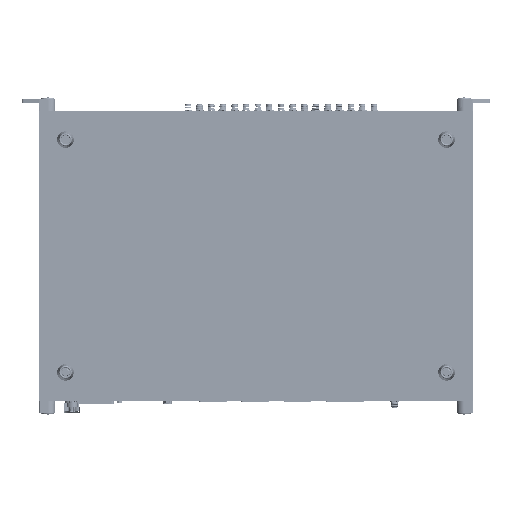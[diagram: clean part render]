
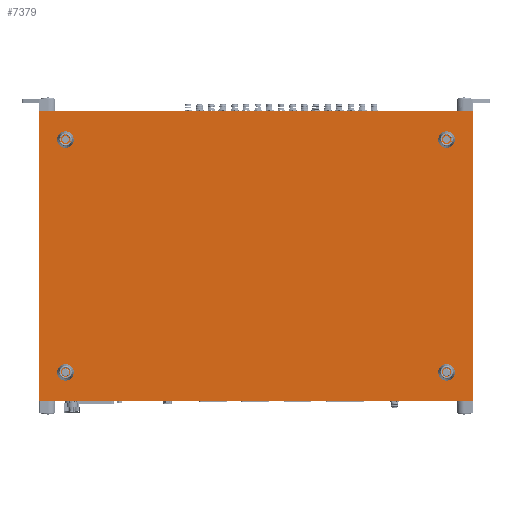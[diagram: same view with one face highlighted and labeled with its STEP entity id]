
A CAD part, front view. The second image highlights one B-rep face of the part: STEP entity #7379.
In plain terms, the highlighted planar face has unit normal (0, -1, 0).
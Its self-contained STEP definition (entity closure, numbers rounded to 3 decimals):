
#2614 = CARTESIAN_POINT ( 'NONE',  ( -195.5, -43.8, -120.5 ) ) ;
#5942 = CIRCLE ( 'NONE', #533379, 1.65 ) ;
#7379 = ADVANCED_FACE ( 'NONE', ( #109733, #21734, #277709, #106999, #148380 ), #484308, .F. ) ;
#10000 = CARTESIAN_POINT ( 'NONE',  ( -172., -43.8, 116.65 ) ) ;
#12257 = DIRECTION ( 'NONE',  ( 0., 0., 1. ) ) ;
#13948 = LINE ( 'NONE', #264521, #210901 ) ;
#15389 = CIRCLE ( 'NONE', #340426, 1.65 ) ;
#17143 = EDGE_LOOP ( 'NONE', ( #386265 ) ) ;
#21734 = FACE_BOUND ( 'NONE', #17143, .T. ) ;
#26334 = CARTESIAN_POINT ( 'NONE',  ( -172., -43.8, 115. ) ) ;
#32333 = AXIS2_PLACEMENT_3D ( 'NONE', #26334, #530190, #152980 ) ;
#40276 = VERTEX_POINT ( 'NONE', #65347 ) ;
#41625 = EDGE_LOOP ( 'NONE', ( #210999 ) ) ;
#46242 = ORIENTED_EDGE ( 'NONE', *, *, #505472, .F. ) ;
#49394 = LINE ( 'NONE', #2614, #357622 ) ;
#57678 = CARTESIAN_POINT ( 'NONE',  ( 0., -43.8, 10. ) ) ;
#59235 = EDGE_LOOP ( 'NONE', ( #46242, #224777, #220338, #104412 ) ) ;
#65347 = CARTESIAN_POINT ( 'NONE',  ( -195.5, -43.8, 140.5 ) ) ;
#66564 = VERTEX_POINT ( 'NONE', #150269 ) ;
#70353 = CARTESIAN_POINT ( 'NONE',  ( 172., -43.8, -95. ) ) ;
#71570 = VERTEX_POINT ( 'NONE', #190051 ) ;
#78099 = VERTEX_POINT ( 'NONE', #375392 ) ;
#104412 = ORIENTED_EDGE ( 'NONE', *, *, #392840, .F. ) ;
#106999 = FACE_BOUND ( 'NONE', #41625, .T. ) ;
#109733 = FACE_BOUND ( 'NONE', #155337, .T. ) ;
#148380 = FACE_OUTER_BOUND ( 'NONE', #59235, .T. ) ;
#150269 = CARTESIAN_POINT ( 'NONE',  ( -195.5, -43.8, -120.5 ) ) ;
#152980 = DIRECTION ( 'NONE',  ( 0., 0., 1. ) ) ;
#155337 = EDGE_LOOP ( 'NONE', ( #177024 ) ) ;
#165220 = DIRECTION ( 'NONE',  ( 0., 0., 1. ) ) ;
#168701 = CIRCLE ( 'NONE', #353079, 1.65 ) ;
#175248 = VERTEX_POINT ( 'NONE', #10000 ) ;
#177024 = ORIENTED_EDGE ( 'NONE', *, *, #268965, .T. ) ;
#190051 = CARTESIAN_POINT ( 'NONE',  ( 172., -43.8, 116.65 ) ) ;
#201013 = CARTESIAN_POINT ( 'NONE',  ( 195.5, -43.8, -120.5 ) ) ;
#210901 = VECTOR ( 'NONE', #344419, 1000. ) ;
#210999 = ORIENTED_EDGE ( 'NONE', *, *, #463841, .T. ) ;
#215021 = EDGE_CURVE ( 'NONE', #71570, #71570, #15389, .T. ) ;
#220338 = ORIENTED_EDGE ( 'NONE', *, *, #470003, .F. ) ;
#224217 = DIRECTION ( 'NONE',  ( 0., 1., 0. ) ) ;
#224777 = ORIENTED_EDGE ( 'NONE', *, *, #379787, .F. ) ;
#225586 = DIRECTION ( 'NONE',  ( 0., 0., 1. ) ) ;
#248440 = EDGE_CURVE ( 'NONE', #525306, #525306, #5942, .T. ) ;
#255900 = DIRECTION ( 'NONE',  ( 0., 0., 1. ) ) ;
#264521 = CARTESIAN_POINT ( 'NONE',  ( -195.5, -43.8, -120.5 ) ) ;
#268965 = EDGE_CURVE ( 'NONE', #78099, #78099, #168701, .T. ) ;
#269583 = DIRECTION ( 'NONE',  ( 0., 1., 0. ) ) ;
#277709 = FACE_BOUND ( 'NONE', #335623, .T. ) ;
#282295 = DIRECTION ( 'NONE',  ( 0., 1., 0. ) ) ;
#316062 = CARTESIAN_POINT ( 'NONE',  ( 172., -43.8, -93.35 ) ) ;
#316756 = CARTESIAN_POINT ( 'NONE',  ( -195.5, -43.8, 140.5 ) ) ;
#330409 = CARTESIAN_POINT ( 'NONE',  ( -172., -43.8, -95. ) ) ;
#333479 = CARTESIAN_POINT ( 'NONE',  ( 195.5, -43.8, 140.5 ) ) ;
#335623 = EDGE_LOOP ( 'NONE', ( #525836 ) ) ;
#340426 = AXIS2_PLACEMENT_3D ( 'NONE', #342717, #224217, #12257 ) ;
#340441 = CIRCLE ( 'NONE', #32333, 1.65 ) ;
#342717 = CARTESIAN_POINT ( 'NONE',  ( 172., -43.8, 115. ) ) ;
#344419 = DIRECTION ( 'NONE',  ( -1., 0., 0. ) ) ;
#353028 = DIRECTION ( 'NONE',  ( 0., 0., -1. ) ) ;
#353079 = AXIS2_PLACEMENT_3D ( 'NONE', #330409, #374472, #165220 ) ;
#357622 = VECTOR ( 'NONE', #255900, 1000. ) ;
#362303 = VECTOR ( 'NONE', #353028, 1000. ) ;
#364544 = AXIS2_PLACEMENT_3D ( 'NONE', #57678, #269583, #225586 ) ;
#374472 = DIRECTION ( 'NONE',  ( 0., 1., 0. ) ) ;
#375392 = CARTESIAN_POINT ( 'NONE',  ( -172., -43.8, -93.35 ) ) ;
#379787 = EDGE_CURVE ( 'NONE', #473459, #66564, #13948, .T. ) ;
#381424 = VERTEX_POINT ( 'NONE', #333479 ) ;
#386265 = ORIENTED_EDGE ( 'NONE', *, *, #248440, .T. ) ;
#392840 = EDGE_CURVE ( 'NONE', #40276, #381424, #446077, .T. ) ;
#404794 = DIRECTION ( 'NONE',  ( 1., 0., 0. ) ) ;
#406258 = DIRECTION ( 'NONE',  ( 0., 0., 1. ) ) ;
#439201 = VECTOR ( 'NONE', #404794, 1000. ) ;
#446077 = LINE ( 'NONE', #316756, #439201 ) ;
#463841 = EDGE_CURVE ( 'NONE', #175248, #175248, #340441, .T. ) ;
#470003 = EDGE_CURVE ( 'NONE', #381424, #473459, #515566, .T. ) ;
#473459 = VERTEX_POINT ( 'NONE', #201013 ) ;
#474286 = CARTESIAN_POINT ( 'NONE',  ( 195.5, -43.8, 140.5 ) ) ;
#484308 = PLANE ( 'NONE',  #364544 ) ;
#505472 = EDGE_CURVE ( 'NONE', #66564, #40276, #49394, .T. ) ;
#515566 = LINE ( 'NONE', #474286, #362303 ) ;
#525306 = VERTEX_POINT ( 'NONE', #316062 ) ;
#525836 = ORIENTED_EDGE ( 'NONE', *, *, #215021, .T. ) ;
#530190 = DIRECTION ( 'NONE',  ( 0., 1., 0. ) ) ;
#533379 = AXIS2_PLACEMENT_3D ( 'NONE', #70353, #282295, #406258 ) ;
